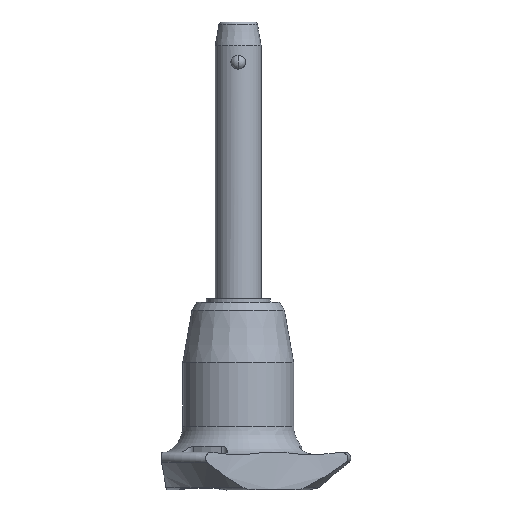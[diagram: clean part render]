
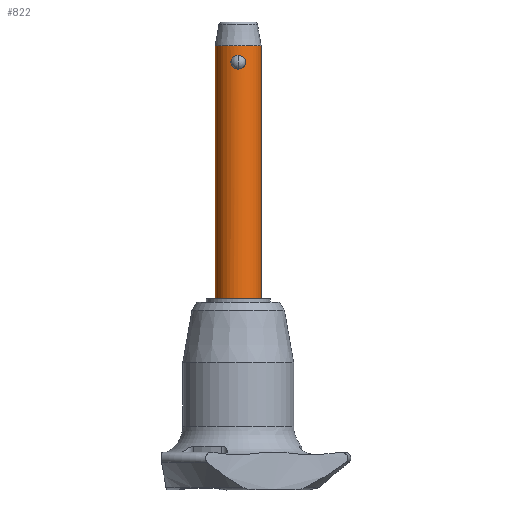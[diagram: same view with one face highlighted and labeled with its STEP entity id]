
A CAD part, front view. The second image highlights one B-rep face of the part: STEP entity #822.
In plain terms, the highlighted cylindrical face has radius 4 mm (diameter 8 mm), a partial arc.
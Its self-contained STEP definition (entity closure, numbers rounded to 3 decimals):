
#28 = CARTESIAN_POINT ( 'NONE',  ( -0.162, -4., 0. ) ) ;
#62 = CARTESIAN_POINT ( 'NONE',  ( 1.199, -3.816, 1.599 ) ) ;
#85 = CARTESIAN_POINT ( 'NONE',  ( 0., 0., -40. ) ) ;
#99 = CYLINDRICAL_SURFACE ( 'NONE', #496, 4. ) ;
#191 = CIRCLE ( 'NONE', #2276, 4. ) ;
#205 = EDGE_CURVE ( 'NONE', #810, #280, #1640, .T. ) ;
#216 = CARTESIAN_POINT ( 'NONE',  ( 4., 0., 4.1 ) ) ;
#222 = CARTESIAN_POINT ( 'NONE',  ( -0.164, -4., 2.4 ) ) ;
#236 = CARTESIAN_POINT ( 'NONE',  ( -1.199, -3.816, 0.802 ) ) ;
#280 = VERTEX_POINT ( 'NONE', #791 ) ;
#361 = DIRECTION ( 'NONE',  ( 0., 0., -1. ) ) ;
#427 = CARTESIAN_POINT ( 'NONE',  ( 0., 0., -40. ) ) ;
#431 = CARTESIAN_POINT ( 'NONE',  ( -0.553, -3.962, 2.285 ) ) ;
#479 = CARTESIAN_POINT ( 'NONE',  ( 0.326, -3.99, 2.371 ) ) ;
#496 = AXIS2_PLACEMENT_3D ( 'NONE', #85, #1590, #970 ) ;
#506 = CARTESIAN_POINT ( 'NONE',  ( 1.132, -3.836, 0.651 ) ) ;
#530 = CARTESIAN_POINT ( 'NONE',  ( 1.266, -3.794, 1.281 ) ) ;
#543 = DIRECTION ( 'NONE',  ( 1., 0., 0. ) ) ;
#631 = CARTESIAN_POINT ( 'NONE',  ( 0.627, -3.953, 0.143 ) ) ;
#639 = CARTESIAN_POINT ( 'NONE',  ( -0.945, -3.887, 2.008 ) ) ;
#652 = CARTESIAN_POINT ( 'NONE',  ( -1.101, -3.846, 0.579 ) ) ;
#655 = CARTESIAN_POINT ( 'NONE',  ( 4., 0., -40. ) ) ;
#661 = CARTESIAN_POINT ( 'NONE',  ( 0., -4., 2.4 ) ) ;
#664 = CARTESIAN_POINT ( 'NONE',  ( 0., -4., 2.4 ) ) ;
#712 = CARTESIAN_POINT ( 'NONE',  ( 0.769, -3.927, 2.171 ) ) ;
#728 = CARTESIAN_POINT ( 'NONE',  ( 1.092, -3.848, 0.582 ) ) ;
#729 = FACE_BOUND ( 'NONE', #2419, .T. ) ;
#791 = CARTESIAN_POINT ( 'NONE',  ( -4., 0., 4.1 ) ) ;
#810 = VERTEX_POINT ( 'NONE', #1788 ) ;
#822 = ADVANCED_FACE ( 'NONE', ( #1381, #729 ), #99, .T. ) ;
#832 = CARTESIAN_POINT ( 'NONE',  ( 0., -4., 0. ) ) ;
#849 = CARTESIAN_POINT ( 'NONE',  ( -0.625, -3.951, 2.25 ) ) ;
#955 = CARTESIAN_POINT ( 'NONE',  ( 1.231, -3.806, 0.873 ) ) ;
#970 = DIRECTION ( 'NONE',  ( 1., 0., 0. ) ) ;
#974 = B_SPLINE_CURVE_WITH_KNOTS ( 'NONE', 3,
 ( #664, #222, #1278, #431, #849, #2545, #1291, #639, #1491, #2331, #2125, #1503, #1714, #1071, #2558, #1922, #236, #652, #2342, #2136, #1089, #1939, #28, #2572 ),
 .UNSPECIFIED., .F., .F.,
 ( 4, 2, 2, 2, 2, 2, 2, 2, 2, 2, 2, 4 ),
 ( 0., 0., 0.001, 0.001, 0.001, 0.001, 0.002, 0.002, 0.002, 0.003, 0.003, 0.004 ),
 .UNSPECIFIED. ) ;
#1000 = VECTOR ( 'NONE', #1463, 1000. ) ;
#1043 = DIRECTION ( 'NONE',  ( 0., 0., -1. ) ) ;
#1071 = CARTESIAN_POINT ( 'NONE',  ( -1.266, -3.794, 1.12 ) ) ;
#1089 = CARTESIAN_POINT ( 'NONE',  ( -0.628, -3.953, 0.143 ) ) ;
#1118 = CARTESIAN_POINT ( 'NONE',  ( 0.629, -3.953, 2.256 ) ) ;
#1132 = ORIENTED_EDGE ( 'NONE', *, *, #1632, .F. ) ;
#1204 = CARTESIAN_POINT ( 'NONE',  ( 0., -4., 0. ) ) ;
#1246 = DIRECTION ( 'NONE',  ( 1., 0., 0. ) ) ;
#1278 = CARTESIAN_POINT ( 'NONE',  ( -0.325, -3.99, 2.371 ) ) ;
#1291 = CARTESIAN_POINT ( 'NONE',  ( -0.827, -3.914, 2.117 ) ) ;
#1381 = FACE_OUTER_BOUND ( 'NONE', #1574, .T. ) ;
#1463 = DIRECTION ( 'NONE',  ( 0., 0., 1. ) ) ;
#1491 = CARTESIAN_POINT ( 'NONE',  ( -0.998, -3.874, 1.949 ) ) ;
#1501 = EDGE_CURVE ( 'NONE', #2427, #2486, #974, .T. ) ;
#1503 = CARTESIAN_POINT ( 'NONE',  ( -1.231, -3.806, 1.527 ) ) ;
#1569 = ORIENTED_EDGE ( 'NONE', *, *, #1791, .T. ) ;
#1574 = EDGE_LOOP ( 'NONE', ( #2274, #1964, #1999, #1569 ) ) ;
#1589 = CARTESIAN_POINT ( 'NONE',  ( 1.101, -3.846, 1.82 ) ) ;
#1590 = DIRECTION ( 'NONE',  ( 0., 0., 1. ) ) ;
#1632 = EDGE_CURVE ( 'NONE', #2486, #2427, #2642, .T. ) ;
#1640 = LINE ( 'NONE', #1866, #2354 ) ;
#1654 = DIRECTION ( 'NONE',  ( 0., 0., 1. ) ) ;
#1665 = AXIS2_PLACEMENT_3D ( 'NONE', #427, #1043, #1246 ) ;
#1701 = LINE ( 'NONE', #2549, #1000 ) ;
#1714 = CARTESIAN_POINT ( 'NONE',  ( -1.266, -3.794, 1.364 ) ) ;
#1787 = CARTESIAN_POINT ( 'NONE',  ( 0.944, -3.887, 0.391 ) ) ;
#1788 = CARTESIAN_POINT ( 'NONE',  ( -4., 0., -40. ) ) ;
#1791 = EDGE_CURVE ( 'NONE', #2316, #280, #191, .T. ) ;
#1802 = CARTESIAN_POINT ( 'NONE',  ( 0.164, -4., 2.4 ) ) ;
#1866 = CARTESIAN_POINT ( 'NONE',  ( -4., 0., -40. ) ) ;
#1870 = VERTEX_POINT ( 'NONE', #655 ) ;
#1922 = CARTESIAN_POINT ( 'NONE',  ( -1.224, -3.808, 0.879 ) ) ;
#1925 = EDGE_CURVE ( 'NONE', #1870, #2316, #1701, .T. ) ;
#1939 = CARTESIAN_POINT ( 'NONE',  ( -0.326, -3.99, 0.029 ) ) ;
#1964 = ORIENTED_EDGE ( 'NONE', *, *, #2568, .F. ) ;
#1971 = CARTESIAN_POINT ( 'NONE',  ( 1.005, -3.874, 1.953 ) ) ;
#1984 = CARTESIAN_POINT ( 'NONE',  ( 0., -4., 2.4 ) ) ;
#1999 = ORIENTED_EDGE ( 'NONE', *, *, #1925, .T. ) ;
#2102 = CIRCLE ( 'NONE', #1665, 4. ) ;
#2107 = CARTESIAN_POINT ( 'NONE',  ( 0.162, -4., 0. ) ) ;
#2125 = CARTESIAN_POINT ( 'NONE',  ( -1.133, -3.836, 1.747 ) ) ;
#2136 = CARTESIAN_POINT ( 'NONE',  ( -0.768, -3.927, 0.228 ) ) ;
#2210 = CARTESIAN_POINT ( 'NONE',  ( 0.768, -3.927, 0.228 ) ) ;
#2224 = CARTESIAN_POINT ( 'NONE',  ( 1.258, -3.797, 1.361 ) ) ;
#2274 = ORIENTED_EDGE ( 'NONE', *, *, #205, .F. ) ;
#2276 = AXIS2_PLACEMENT_3D ( 'NONE', #2488, #361, #543 ) ;
#2293 = ORIENTED_EDGE ( 'NONE', *, *, #1501, .F. ) ;
#2316 = VERTEX_POINT ( 'NONE', #216 ) ;
#2331 = CARTESIAN_POINT ( 'NONE',  ( -1.092, -3.848, 1.818 ) ) ;
#2342 = CARTESIAN_POINT ( 'NONE',  ( -1.005, -3.874, 0.447 ) ) ;
#2354 = VECTOR ( 'NONE', #1654, 1000. ) ;
#2383 = CARTESIAN_POINT ( 'NONE',  ( 0.999, -3.874, 0.452 ) ) ;
#2419 = EDGE_LOOP ( 'NONE', ( #2293, #1132 ) ) ;
#2427 = VERTEX_POINT ( 'NONE', #661 ) ;
#2486 = VERTEX_POINT ( 'NONE', #1204 ) ;
#2488 = CARTESIAN_POINT ( 'NONE',  ( 0., 0., 4.1 ) ) ;
#2539 = CARTESIAN_POINT ( 'NONE',  ( 0.326, -3.99, 0.029 ) ) ;
#2545 = CARTESIAN_POINT ( 'NONE',  ( -0.762, -3.927, 2.166 ) ) ;
#2549 = CARTESIAN_POINT ( 'NONE',  ( 4., 0., -40. ) ) ;
#2558 = CARTESIAN_POINT ( 'NONE',  ( -1.258, -3.797, 1.038 ) ) ;
#2568 = EDGE_CURVE ( 'NONE', #1870, #810, #2102, .T. ) ;
#2572 = CARTESIAN_POINT ( 'NONE',  ( 0., -4., 0. ) ) ;
#2593 = CARTESIAN_POINT ( 'NONE',  ( 1.266, -3.794, 1.035 ) ) ;
#2628 = CARTESIAN_POINT ( 'NONE',  ( 1.224, -3.808, 1.52 ) ) ;
#2642 = B_SPLINE_CURVE_WITH_KNOTS ( 'NONE', 3,
 ( #832, #2107, #2539, #631, #2210, #1787, #2383, #728, #506, #955, #2593, #530, #2224, #2628, #62, #1589, #1971, #712, #1118, #479, #1802, #1984 ),
 .UNSPECIFIED., .F., .F.,
 ( 4, 2, 2, 2, 2, 2, 2, 2, 2, 2, 4 ),
 ( 0.004, 0.004, 0.005, 0.005, 0.005, 0.006, 0.006, 0.006, 0.007, 0.007, 0.008 ),
 .UNSPECIFIED. ) ;
